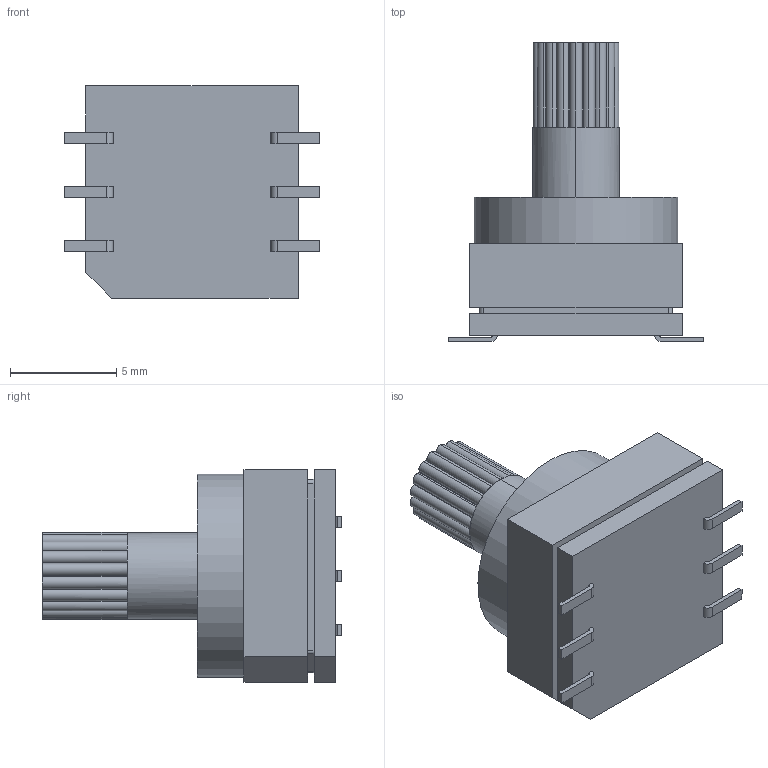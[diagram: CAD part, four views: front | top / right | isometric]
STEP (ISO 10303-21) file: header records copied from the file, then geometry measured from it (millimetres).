
FILE_DESCRIPTION (( 'STEP AP203' ), '1' );
FILE_NAME ('TSR-16S.STEP', '2016-11-24T08:48:36', ( 'user' ), ( '' ), 'SwSTEP 2.0', 'SolidWorks 2016', '' );
FILE_SCHEMA (( 'CONFIG_CONTROL_DESIGN' ));
Length unit declared in the file: millimetre
Products named in the file (1): TSR-16S
Bounding box: 12 x 14.1 x 10 mm (x, y, z)
Volume: 665.7 mm3; surface area: 640.3 mm2
Topology: 1 solids, 1 shells, 661 faces, 1794 edges, 1189 vertices
Faces by surface type: bspline 330, plane 254, cylinder 77
Entity records: 28816 total; most frequent: CARTESIAN_POINT 14167, ORIENTED_EDGE 3588, DIRECTION 1985, EDGE_CURVE 1794, VERTEX_POINT 1189, VECTOR 947, LINE 947, EDGE_LOOP 715
